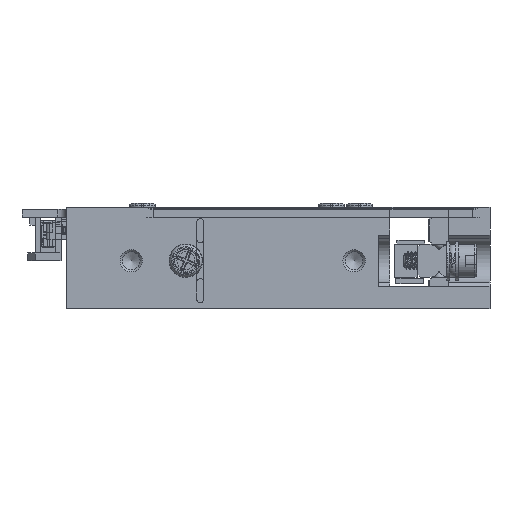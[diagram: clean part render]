
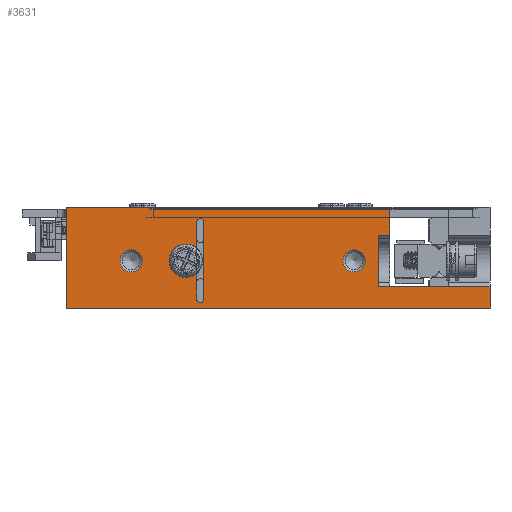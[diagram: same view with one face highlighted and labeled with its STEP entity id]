
A CAD part, left-side view. The second image highlights one B-rep face of the part: STEP entity #3631.
In plain terms, the highlighted planar face has unit normal (-1, 0, 0).
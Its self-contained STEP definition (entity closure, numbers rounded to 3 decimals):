
#995=PLANE('',#56224);
#3247=FACE_BOUND('',#9440,.T.);
#3248=FACE_BOUND('',#9441,.T.);
#3249=FACE_BOUND('',#9442,.T.);
#3250=FACE_BOUND('',#9443,.T.);
#3631=ADVANCED_FACE('',(#3247,#3248,#3249,#3250),#995,.F.);
#9440=EDGE_LOOP('',(#26516));
#9441=EDGE_LOOP('',(#26517));
#9442=EDGE_LOOP('',(#26518,#26519,#26520,#26521,#26522,#26523));
#9443=EDGE_LOOP('',(#26524,#26525,#26526,#26527,#26528,#26529,#26530,#26531,
#26532,#26533,#26534,#26535));
#12400=LINE('',#74431,#19347);
#12401=LINE('',#74436,#19348);
#12402=LINE('',#74440,#19349);
#12403=LINE('',#74443,#19350);
#12404=LINE('',#74446,#19351);
#12405=LINE('',#74448,#19352);
#12406=LINE('',#74450,#19353);
#12407=LINE('',#74452,#19354);
#12408=LINE('',#74454,#19355);
#12409=LINE('',#74456,#19356);
#12410=LINE('',#74458,#19357);
#12411=LINE('',#74460,#19358);
#12412=LINE('',#74462,#19359);
#12413=LINE('',#74464,#19360);
#12414=LINE('',#74466,#19361);
#19347=VECTOR('',#60145,1.);
#19348=VECTOR('',#60148,1.);
#19349=VECTOR('',#60151,1.);
#19350=VECTOR('',#60154,1.);
#19351=VECTOR('',#60155,1.);
#19352=VECTOR('',#60156,1.);
#19353=VECTOR('',#60157,1.);
#19354=VECTOR('',#60158,1.);
#19355=VECTOR('',#60159,1.);
#19356=VECTOR('',#60160,1.);
#19357=VECTOR('',#60161,1.);
#19358=VECTOR('',#60162,1.);
#19359=VECTOR('',#60163,1.);
#19360=VECTOR('',#60164,1.);
#19361=VECTOR('',#60165,1.);
#26516=ORIENTED_EDGE('',*,*,#47412,.T.);
#26517=ORIENTED_EDGE('',*,*,#47413,.T.);
#26518=ORIENTED_EDGE('',*,*,#47414,.F.);
#26519=ORIENTED_EDGE('',*,*,#47415,.T.);
#26520=ORIENTED_EDGE('',*,*,#47416,.F.);
#26521=ORIENTED_EDGE('',*,*,#47417,.F.);
#26522=ORIENTED_EDGE('',*,*,#47418,.F.);
#26523=ORIENTED_EDGE('',*,*,#47419,.F.);
#26524=ORIENTED_EDGE('',*,*,#47420,.F.);
#26525=ORIENTED_EDGE('',*,*,#47421,.T.);
#26526=ORIENTED_EDGE('',*,*,#47422,.F.);
#26527=ORIENTED_EDGE('',*,*,#47423,.F.);
#26528=ORIENTED_EDGE('',*,*,#47424,.T.);
#26529=ORIENTED_EDGE('',*,*,#47425,.T.);
#26530=ORIENTED_EDGE('',*,*,#47426,.T.);
#26531=ORIENTED_EDGE('',*,*,#47427,.T.);
#26532=ORIENTED_EDGE('',*,*,#47428,.T.);
#26533=ORIENTED_EDGE('',*,*,#47429,.F.);
#26534=ORIENTED_EDGE('',*,*,#47430,.T.);
#26535=ORIENTED_EDGE('',*,*,#47431,.T.);
#42134=VERTEX_POINT('',#74428);
#42135=VERTEX_POINT('',#74430);
#42136=VERTEX_POINT('',#74432);
#42137=VERTEX_POINT('',#74433);
#42138=VERTEX_POINT('',#74435);
#42139=VERTEX_POINT('',#74437);
#42140=VERTEX_POINT('',#74439);
#42141=VERTEX_POINT('',#74441);
#42142=VERTEX_POINT('',#74444);
#42143=VERTEX_POINT('',#74445);
#42144=VERTEX_POINT('',#74447);
#42145=VERTEX_POINT('',#74449);
#42146=VERTEX_POINT('',#74451);
#42147=VERTEX_POINT('',#74453);
#42148=VERTEX_POINT('',#74455);
#42149=VERTEX_POINT('',#74457);
#42150=VERTEX_POINT('',#74459);
#42151=VERTEX_POINT('',#74461);
#42152=VERTEX_POINT('',#74463);
#42153=VERTEX_POINT('',#74465);
#47412=EDGE_CURVE('',#42134,#42134,#55235,.T.);
#47413=EDGE_CURVE('',#42135,#42135,#55236,.T.);
#47414=EDGE_CURVE('',#42136,#42137,#12400,.T.);
#47415=EDGE_CURVE('',#42136,#42138,#55237,.T.);
#47416=EDGE_CURVE('',#42139,#42138,#12401,.T.);
#47417=EDGE_CURVE('',#42140,#42139,#55238,.T.);
#47418=EDGE_CURVE('',#42141,#42140,#12402,.T.);
#47419=EDGE_CURVE('',#42137,#42141,#55239,.T.);
#47420=EDGE_CURVE('',#42142,#42143,#12403,.T.);
#47421=EDGE_CURVE('',#42142,#42144,#12404,.T.);
#47422=EDGE_CURVE('',#42145,#42144,#12405,.T.);
#47423=EDGE_CURVE('',#42146,#42145,#12406,.T.);
#47424=EDGE_CURVE('',#42146,#42147,#12407,.T.);
#47425=EDGE_CURVE('',#42147,#42148,#12408,.T.);
#47426=EDGE_CURVE('',#42148,#42149,#12409,.T.);
#47427=EDGE_CURVE('',#42149,#42150,#12410,.T.);
#47428=EDGE_CURVE('',#42150,#42151,#12411,.T.);
#47429=EDGE_CURVE('',#42152,#42151,#12412,.T.);
#47430=EDGE_CURVE('',#42152,#42153,#12413,.T.);
#47431=EDGE_CURVE('',#42153,#42143,#12414,.T.);
#55235=CIRCLE('',#56219,1.);
#55236=CIRCLE('',#56220,1.);
#55237=CIRCLE('',#56221,1.);
#55238=CIRCLE('',#56222,0.325);
#55239=CIRCLE('',#56223,0.325);
#56219=AXIS2_PLACEMENT_3D('',#74427,#60141,#60142);
#56220=AXIS2_PLACEMENT_3D('',#74429,#60143,#60144);
#56221=AXIS2_PLACEMENT_3D('',#74434,#60146,#60147);
#56222=AXIS2_PLACEMENT_3D('',#74438,#60149,#60150);
#56223=AXIS2_PLACEMENT_3D('',#74442,#60152,#60153);
#56224=AXIS2_PLACEMENT_3D('',#74467,#60166,#60167);
#60141=DIRECTION('',(1.,0.,0.));
#60142=DIRECTION('',(0.,1.,0.));
#60143=DIRECTION('',(1.,0.,0.));
#60144=DIRECTION('',(0.,1.,0.));
#60145=DIRECTION('',(0.,0.,-1.));
#60146=DIRECTION('',(1.,0.,0.));
#60147=DIRECTION('',(0.,1.,0.));
#60148=DIRECTION('',(0.,0.,-1.));
#60149=DIRECTION('',(-1.,0.,0.));
#60150=DIRECTION('',(0.,0.,1.));
#60151=DIRECTION('',(0.,0.,1.));
#60152=DIRECTION('',(-1.,0.,0.));
#60153=DIRECTION('',(0.,0.,1.));
#60154=DIRECTION('',(0.,0.,-1.));
#60155=DIRECTION('',(0.,1.,0.));
#60156=DIRECTION('',(0.,0.,1.));
#60157=DIRECTION('',(0.,-1.,0.));
#60158=DIRECTION('',(0.,0.,1.));
#60159=DIRECTION('',(0.,1.,0.));
#60160=DIRECTION('',(0.,0.,1.));
#60161=DIRECTION('',(0.,-1.,0.));
#60162=DIRECTION('',(0.,0.,1.));
#60163=DIRECTION('',(0.,-1.,0.));
#60164=DIRECTION('',(0.,0.,-1.));
#60165=DIRECTION('',(0.,-1.,0.));
#60166=DIRECTION('',(1.,0.,0.));
#60167=DIRECTION('',(0.,1.,0.));
#74427=CARTESIAN_POINT('',(-15.,12.2,4.3));
#74428=CARTESIAN_POINT('',(-15.,13.2,4.3));
#74429=CARTESIAN_POINT('',(-15.,32.2,4.3));
#74430=CARTESIAN_POINT('',(-15.,33.2,4.3));
#74431=CARTESIAN_POINT('',(-15.,26.325,2.35));
#74432=CARTESIAN_POINT('',(-15.,26.325,4.078));
#74433=CARTESIAN_POINT('',(-15.,26.325,0.85));
#74434=CARTESIAN_POINT('',(-15.,27.3,4.3));
#74435=CARTESIAN_POINT('',(-15.,26.325,4.522));
#74436=CARTESIAN_POINT('',(-15.,26.325,2.35));
#74437=CARTESIAN_POINT('',(-15.,26.325,7.75));
#74438=CARTESIAN_POINT('',(-15.,26.,7.75));
#74439=CARTESIAN_POINT('',(-15.,25.675,7.75));
#74440=CARTESIAN_POINT('',(-15.,25.675,0.85));
#74441=CARTESIAN_POINT('',(-15.,25.675,0.85));
#74442=CARTESIAN_POINT('',(-15.,26.,0.85));
#74443=CARTESIAN_POINT('',(-15.,0.,9.1));
#74444=CARTESIAN_POINT('',(-15.,0.,2.009));
#74445=CARTESIAN_POINT('',(-15.,0.,0.));
#74446=CARTESIAN_POINT('',(-15.,3.7,2.009));
#74447=CARTESIAN_POINT('',(-15.,3.7,2.009));
#74448=CARTESIAN_POINT('',(-15.,3.7,2.));
#74449=CARTESIAN_POINT('',(-15.,3.7,2.));
#74450=CARTESIAN_POINT('',(-15.,9.,2.));
#74451=CARTESIAN_POINT('',(-15.,9.,2.));
#74452=CARTESIAN_POINT('',(-15.,9.,2.));
#74453=CARTESIAN_POINT('',(-15.,9.,2.009));
#74454=CARTESIAN_POINT('',(-15.,10.,2.009));
#74455=CARTESIAN_POINT('',(-15.,10.,2.009));
#74456=CARTESIAN_POINT('',(-15.,10.,2.3));
#74457=CARTESIAN_POINT('',(-15.,10.,6.591));
#74458=CARTESIAN_POINT('',(-15.,9.,6.591));
#74459=CARTESIAN_POINT('',(-15.,9.,6.591));
#74460=CARTESIAN_POINT('',(-15.,9.,2.));
#74461=CARTESIAN_POINT('',(-15.,9.,9.1));
#74462=CARTESIAN_POINT('',(-15.,38.,9.1));
#74463=CARTESIAN_POINT('',(-15.,38.,9.1));
#74464=CARTESIAN_POINT('',(-15.,38.,9.1));
#74465=CARTESIAN_POINT('',(-15.,38.,0.));
#74466=CARTESIAN_POINT('',(-15.,38.,0.));
#74467=CARTESIAN_POINT('',(-15.,38.,9.1));
